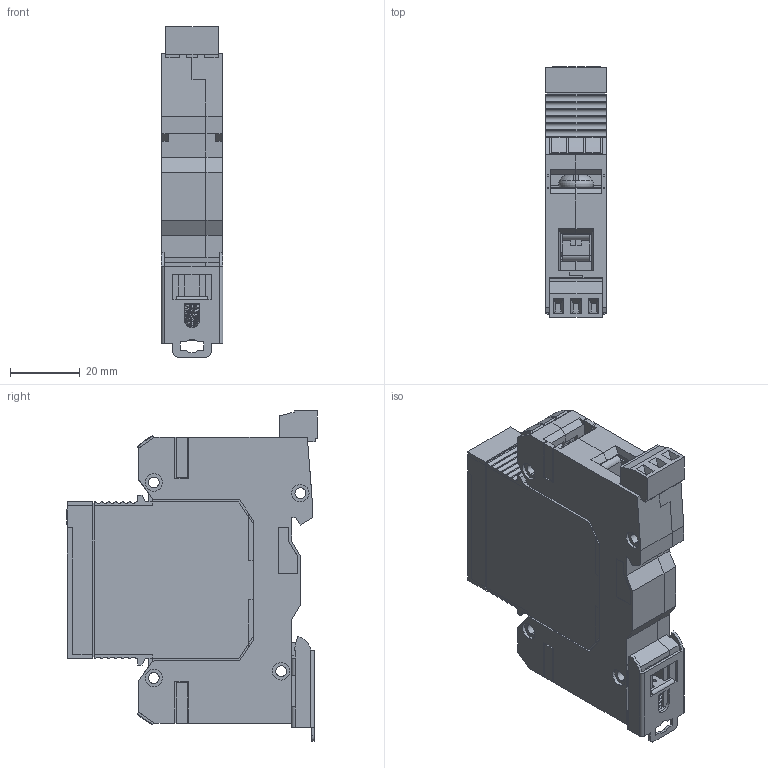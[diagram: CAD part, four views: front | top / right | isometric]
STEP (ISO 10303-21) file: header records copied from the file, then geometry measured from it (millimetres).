
FILE_DESCRIPTION (( 'STEP AP214' ), '1' );
FILE_NAME ('OptiIDn OM 1 ïîëþñ ñ ñèãíàëèçàòîðîìSLDASM.STEP', '2022-12-05T08:14:40', ( '' ), ( '' ), 'SwSTEP 2.0', 'SolidWorks 2018', '' );
FILE_SCHEMA (( 'AUTOMOTIVE_DESIGN' ));
Length unit declared in the file: millimetre
Products named in the file (20): OptiIDn OM 1 ïîëþñ ñ ñèãíàëèçàòîðîìSLDASM; Ïëàñòèíà 52-040_Š1; Ñüåìíûé ìîäóëü 01 ïóñòîé; Êîëîäêà øòåêåðíàÿ 540-2022 21-084; Âûâîä 53-027 îáðåçàíûé äëÿ ñàéòà; Îñíîâàíèå ìîäóëÿ Ë 50-094(ïóñòîé ñ èçìåíåíûì ãàáàðèòîì)_„«ï ç¥àâ¥¦ ; 鎔艜 03-024; Çàãëóøêà ìîäóëÿ Ë 50-084; Êîëîäêà 03-039 ïîä íîâûé ãàáàðèòû; Ïðóæèíà çàùåëêè 13-007; Çàùåëêà 11-010; Îñíîâàíèå ìîäóëÿ Ï 50-095 ïóñòîé; 桎蝂鳪鳿僗闉 47-016 瀀嚦鍣; Ìåòêà 21-086; Çàãëóøêà ìîäóëÿ Ï 50-083; 扻豵鵨 01 瀀嚦鍣; 署赅 01 矬耱铋; Êîäèðîâî÷íàÿ âñòàâêà; Âñòàâêà êîäèðîâî÷íàÿ 50-082; ﾂ鏆鮏 01
Assembly tree (25 placements, depth 3):
  OptiIDn OM 1 ïîëþñ ñ ñèãíàëèçàòîðîìSLDASM
    Îñíîâàíèå ìîäóëÿ Ë 50-094(ïóñòîé ñ èçìåíåíûì ãàáàðèòîì)_„«ï ç¥àâ¥¦ 
    Îñíîâàíèå ìîäóëÿ Ï 50-095 ïóñòîé
    Âûâîä 53-027 îáðåçàíûé äëÿ ñàéòà  x2
    Çàãëóøêà ìîäóëÿ Ë 50-084
    Çàãëóøêà ìîäóëÿ Ï 50-083
    Êîëîäêà 03-039 ïîä íîâûé ãàáàðèòû  x2
    Âñòàâêà êîäèðîâî÷íàÿ 50-082
    鎔艜 03-024  x2
    Ïëàñòèíà 52-040_Š1
    Ìåòêà 21-086  x2
    Ñüåìíûé ìîäóëü 01 ïóñòîé
      扻豵鵨 01 瀀嚦鍣
      署赅 01 矬耱铋
      Êîäèðîâî÷íàÿ âñòàâêà
      ﾂ鏆鮏 01  x2
      Ìåòêà 21-086
    桎蝂鳪鳿僗闉 47-016 瀀嚦鍣
    Êîëîäêà øòåêåðíàÿ 540-2022 21-084
    Çàùåëêà 11-010
    Ïðóæèíà çàùåëêè 13-007
Bounding box: 17.6 x 71.88 x 94.6 mm (x, y, z)
Volume: 31159.4 mm3; surface area: 55259.1 mm2
Topology: 24 solids, 24 shells, 2338 faces, 6440 edges, 4187 vertices
Faces by surface type: plane 1902, cylinder 406, cone 14, torus 8, bspline 8
Entity records: 64773 total; most frequent: CARTESIAN_POINT 12838, ORIENTED_EDGE 10546, DIRECTION 9734, EDGE_CURVE 5273, VECTOR 4600, LINE 4600, VERTEX_POINT 3437, AXIS2_PLACEMENT_3D 2567
